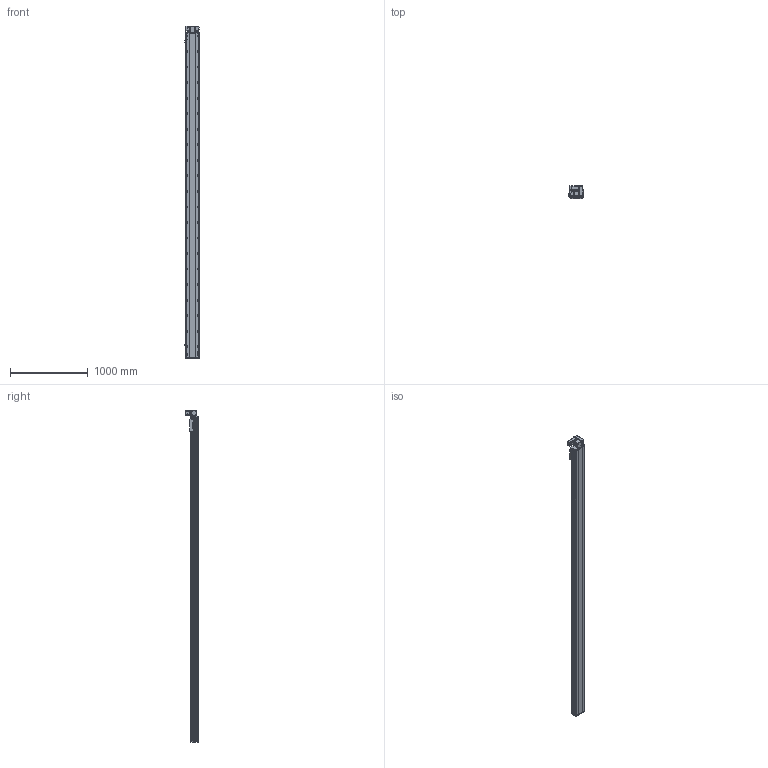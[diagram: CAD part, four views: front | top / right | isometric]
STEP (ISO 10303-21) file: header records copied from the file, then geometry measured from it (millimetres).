
FILE_DESCRIPTION (( 'STEP AP214' ), '1' );
FILE_NAME ('RTB17S-XX-3900-RW-M40-C4.STEP', '2025-12-11T09:24:33', ( '' ), ( '' ), 'SwSTEP 2.0', 'SolidWorks 2018', '' );
FILE_SCHEMA (( 'AUTOMOTIVE_DESIGN' ));
Length unit declared in the file: millimetre
Products named in the file (14): RTB17-R-011菁釱^RTB17S-XX-XX-RW-M40-C4; RTB14-L-018P^RTB17S-RW-々湍釱蚾饜-400W_RTB17S-XX-XX-RW-M40-C4; RMP17S-L-014-T20--々湍釱^RTB17S-RW-々湍釱蚾饜-400W_RTB17S-XX-XX-RW-M40-C4; RTB14-L-008-M20--萇儂啣^RTB17S-RW-々湍釱蚾饜-400W_RTB17S-XX-XX-RW-M40-C4; RTB17S-L-001耜醱啣^RTB17S-XX-XX-RW-M40-C4; 400W侜督萇儂^RTB17S-XX-XX-RW-M40-C4; RTB17S-RW-々湍釱蚾饜-400W^RTB17S-XX-XX-RW-M40-C4; RTB14-L-017P^RTB17S-RW-々湍釱蚾饜-400W_RTB17S-XX-XX-RW-M40-C4; RTB17S-L-004佪裝蹟譫蟀諉釱^RTB17S-XX-XX-RW-M40-C4; RTH13-BL-012覜茼え俋离^RTB17S-XX-XX-RW-M40-C4; RTB14-L-005P--轴承塑胶压盖^RTB17S-RW-皮带座装配-400W_RTB17S-XX-XX-RW-M40-C4; OMRON EE-SX672 传感器^RTB17S-XX-XX-RW-M40-C4; RTB17S-L-007奻裔^RTB17S-XX-XX-RW-M40-C4; RTB17S-XX-3900-RW-M40-C4
Assembly tree (16 placements, depth 3):
  RTB17S-XX-3900-RW-M40-C4
    RTB17-R-011菁釱^RTB17S-XX-XX-RW-M40-C4
    RTB17S-L-007奻裔^RTB17S-XX-XX-RW-M40-C4
    OMRON EE-SX672 传感器^RTB17S-XX-XX-RW-M40-C4  x3
    RTB17S-L-001耜醱啣^RTB17S-XX-XX-RW-M40-C4
    400W侜督萇儂^RTB17S-XX-XX-RW-M40-C4
    RTB17S-L-004佪裝蹟譫蟀諉釱^RTB17S-XX-XX-RW-M40-C4
    RTH13-BL-012覜茼え俋离^RTB17S-XX-XX-RW-M40-C4
    RTB17S-RW-々湍釱蚾饜-400W^RTB17S-XX-XX-RW-M40-C4
      RMP17S-L-014-T20--々湍釱^RTB17S-RW-々湍釱蚾饜-400W_RTB17S-XX-XX-RW-M40-C4
      RTB14-L-005P--轴承塑胶压盖^RTB17S-RW-皮带座装配-400W_RTB17S-XX-XX-RW-M40-C4
      RTB14-L-008-M20--萇儂啣^RTB17S-RW-々湍釱蚾饜-400W_RTB17S-XX-XX-RW-M40-C4
      RTB14-L-017P^RTB17S-RW-々湍釱蚾饜-400W_RTB17S-XX-XX-RW-M40-C4  x2
      RTB14-L-018P^RTB17S-RW-々湍釱蚾饜-400W_RTB17S-XX-XX-RW-M40-C4
Bounding box: 183.5 x 160.5 x 4272.5 mm (x, y, z)
Volume: 36020967.6 mm3; surface area: 4077909.2 mm2
Topology: 15 solids, 15 shells, 2445 faces, 6897 edges, 4509 vertices
Faces by surface type: plane 1098, cylinder 899, bspline 301, cone 139, torus 8
Entity records: 74153 total; most frequent: CARTESIAN_POINT 21302, ORIENTED_EDGE 10638, DIRECTION 9746, EDGE_CURVE 5319, VERTEX_POINT 3497, AXIS2_PLACEMENT_3D 3427, VECTOR 2892, LINE 2892
